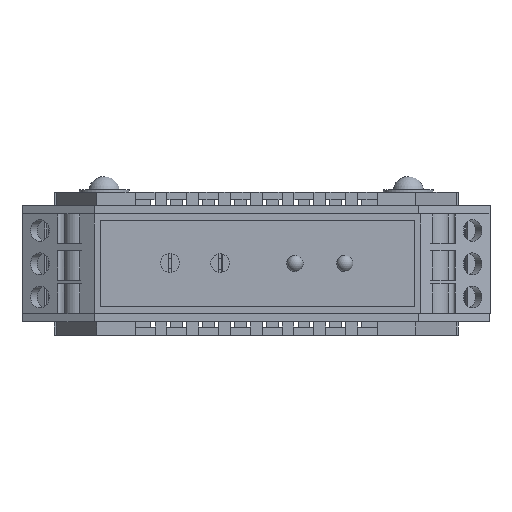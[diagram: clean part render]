
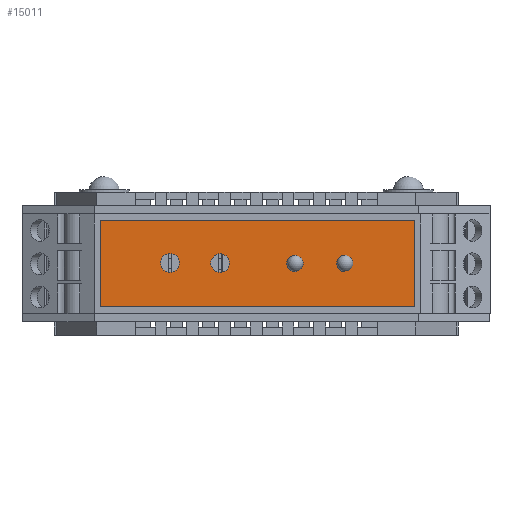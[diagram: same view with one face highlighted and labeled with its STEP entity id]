
A CAD part, front view. The second image highlights one B-rep face of the part: STEP entity #15011.
In plain terms, the highlighted planar face has unit normal (0.005, -1, 0).
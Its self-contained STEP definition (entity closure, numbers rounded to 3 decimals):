
#260=FACE_BOUND('',#2024,.T.);
#261=FACE_BOUND('',#2025,.T.);
#699=PLANE('',#15836);
#1322=FACE_OUTER_BOUND('',#2023,.T.);
#2023=EDGE_LOOP('',(#12582,#12583,#12584,#12585));
#2024=EDGE_LOOP('',(#12586));
#2025=EDGE_LOOP('',(#12587));
#2532=CIRCLE('',#15830,1.5);
#2533=CIRCLE('',#15833,1.5);
#3574=LINE('',#24493,#5455);
#3847=LINE('',#25884,#5728);
#3848=LINE('',#25887,#5729);
#3849=LINE('',#25888,#5730);
#5455=VECTOR('',#17755,10.);
#5728=VECTOR('',#18296,10.);
#5729=VECTOR('',#18299,10.);
#5730=VECTOR('',#18300,10.);
#7144=VERTEX_POINT('',#24490);
#7145=VERTEX_POINT('',#24492);
#7374=VERTEX_POINT('',#25868);
#7376=VERTEX_POINT('',#25874);
#7379=VERTEX_POINT('',#25882);
#7380=VERTEX_POINT('',#25886);
#8942=EDGE_CURVE('',#7144,#7145,#3574,.T.);
#9270=EDGE_CURVE('',#7374,#7374,#2532,.T.);
#9273=EDGE_CURVE('',#7376,#7376,#2533,.T.);
#9278=EDGE_CURVE('',#7379,#7144,#3847,.T.);
#9279=EDGE_CURVE('',#7380,#7379,#3848,.T.);
#9280=EDGE_CURVE('',#7145,#7380,#3849,.T.);
#12582=ORIENTED_EDGE('',*,*,#9278,.F.);
#12583=ORIENTED_EDGE('',*,*,#9279,.F.);
#12584=ORIENTED_EDGE('',*,*,#9280,.F.);
#12585=ORIENTED_EDGE('',*,*,#8942,.F.);
#12586=ORIENTED_EDGE('',*,*,#9270,.T.);
#12587=ORIENTED_EDGE('',*,*,#9273,.T.);
#15011=ADVANCED_FACE('',(#1322,#260,#261),#699,.F.);
#15830=AXIS2_PLACEMENT_3D('',#25869,#18280,#18281);
#15833=AXIS2_PLACEMENT_3D('',#25875,#18287,#18288);
#15836=AXIS2_PLACEMENT_3D('',#25885,#18297,#18298);
#17755=DIRECTION('',(-1.,-0.005,0.));
#18280=DIRECTION('center_axis',(-0.005,1.,0.));
#18281=DIRECTION('ref_axis',(1.,0.005,0.));
#18287=DIRECTION('center_axis',(-0.005,1.,0.));
#18288=DIRECTION('ref_axis',(1.,0.005,0.));
#18296=DIRECTION('',(0.,0.,-1.));
#18297=DIRECTION('center_axis',(-0.005,1.,0.));
#18298=DIRECTION('ref_axis',(0.,0.,1.));
#18299=DIRECTION('',(1.,0.005,0.));
#18300=DIRECTION('',(0.,0.,1.));
#24490=CARTESIAN_POINT('',(25.407,-43.754,-9.524));
#24492=CARTESIAN_POINT('',(-25.005,-43.995,-9.524));
#24493=CARTESIAN_POINT('',(25.407,-43.754,-9.524));
#25868=CARTESIAN_POINT('',(-7.296,-43.911,-2.563));
#25869=CARTESIAN_POINT('Origin',(-5.796,-43.903,-2.563));
#25874=CARTESIAN_POINT('',(-15.346,-43.949,-2.525));
#25875=CARTESIAN_POINT('Origin',(-13.846,-43.942,-2.525));
#25882=CARTESIAN_POINT('',(25.407,-43.754,4.333));
#25884=CARTESIAN_POINT('',(25.407,-43.754,4.333));
#25885=CARTESIAN_POINT('Origin',(0.201,-43.875,-2.596));
#25886=CARTESIAN_POINT('',(-25.005,-43.995,4.333));
#25887=CARTESIAN_POINT('',(-25.005,-43.995,4.333));
#25888=CARTESIAN_POINT('',(-25.005,-43.995,-9.524));
